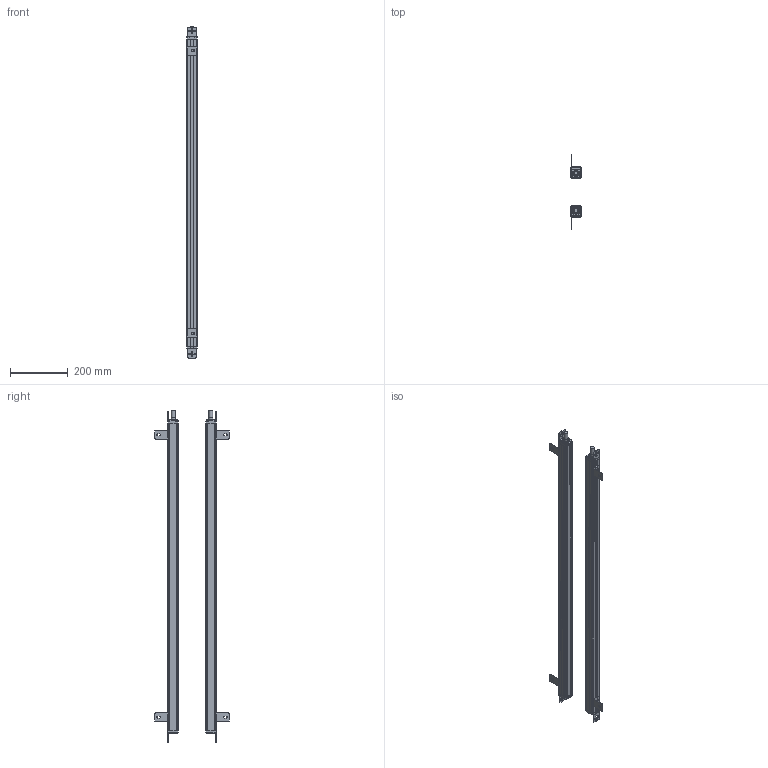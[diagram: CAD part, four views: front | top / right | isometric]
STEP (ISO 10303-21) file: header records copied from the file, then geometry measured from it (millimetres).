
FILE_DESCRIPTION(/* description */ (''),/* implementation_level */ '2;1');
FILE_NAME(/* name */ '5220_35X35_stp.stp',/* time_stamp */ '2023-09-18T16:29:37+08:00',/* author */ (''),/* organization */ (''),/* preprocessor_version */ 'ST-DEVELOPER v16.7',/* originating_system */ 'SIEMENS PLM Software NX 12.0',/* authorisation */ '');
FILE_SCHEMA (('AP203_CONFIGURATION_CONTROLLED_3D_DESIGN_OF_MECHANICAL_PARTS_AND_ASSEMBLIES_MIM_LF { 1 0 10303 403 2 1 2}'));
Length unit declared in the file: millimetre
Products named in the file (1): 5220_35X35_stp_stp
Bounding box: 35.41 x 258.01 x 1151.6 mm (x, y, z)
Volume: 1057673.8 mm3; surface area: 796347 mm2
Topology: 28 solids, 28 shells, 1182 faces, 3360 edges, 2260 vertices
Faces by surface type: plane 658, cylinder 464, cone 60
Full cylindrical faces by diameter (mm): 3.2 x8, 6 x24, 13 x2, 14.4 x2, 15 x2
Entity records: 39055 total; most frequent: DIRECTION 6832, CARTESIAN_POINT 6745, ORIENTED_EDGE 6612, EDGE_CURVE 3306, AXIS2_PLACEMENT_3D 2347, VERTEX_POINT 2244, LINE 2138, VECTOR 2138
